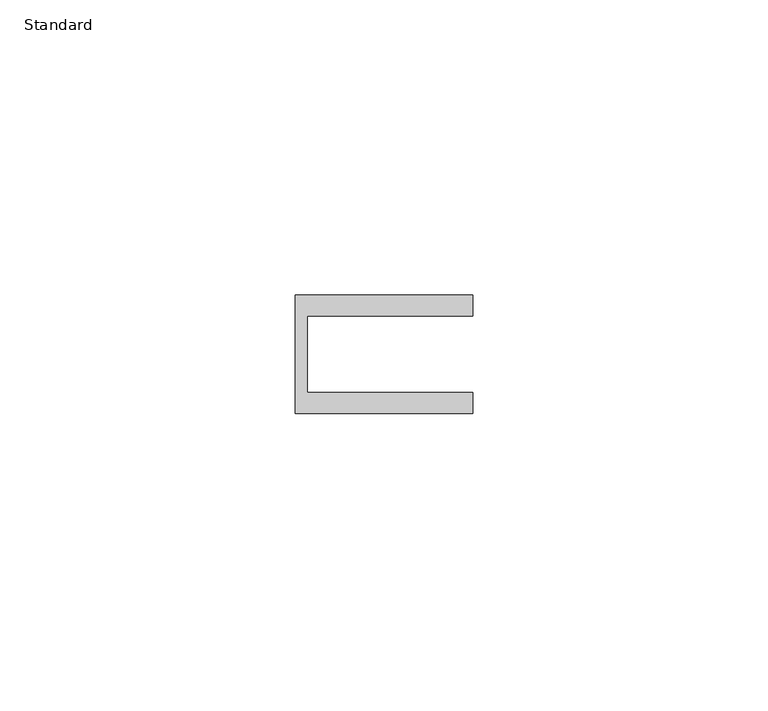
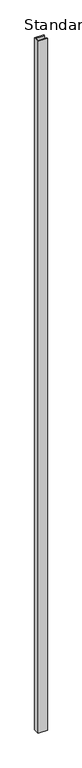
"""IFC4 building model written with IfcOpenShell, lengths in millimetres: furniture geometry, X_Partition-Channel-Duracube-End : Standard."""

from ifc_helpers import new_model, si_unit, origin, origin_with_axes, place, context, project, spatial, polyline, outline, extrude, source, transform, mapped, element, save


def standard_dc7732f7(model_context):
    return source(origin(), model_context, "Body", "SweptSolid", [
        extrude(outline(polyline([(31.7003264, 0.0), (31.7003264, -13.0), (59.7003264, -13.0), (59.7003264, -16.5), (29.7003264, -16.5), (29.7003264, 3.5), (59.7003264, 3.5), (59.7003264, 0.0), (31.7003264, 0.0)])), origin_with_axes(), (0.0, 0.0, 1.0), 2400.0),
    ])


if __name__ == "__main__":
    model = new_model("IFC4")
    model_context = context("Model", 3, world=origin())
    ifc_project = project(units=[si_unit("LENGTHUNIT", "METRE", prefix="MILLI")], contexts=[model_context])
    site = spatial("IfcSite", under=ifc_project)
    building = spatial("IfcBuilding", under=site)
    placement = place(None, origin())
    standard_shape = standard_dc7732f7(model_context)
    element("IfcFurniture", 1, ObjectType="X_Partition-Channel-Duracube-End : Standard", at=placement, inside=building, context=model_context, shape_type="MappedRepresentation", body=[
        mapped(standard_shape, transform((0.0, 0.0, 0.0), x_axis=(1.0, 0.0, 0.0), y_axis=(0.0, 1.0, 0.0), z_axis=(0.0, 0.0, 1.0))),
    ])
    save(model, "model.ifc")
